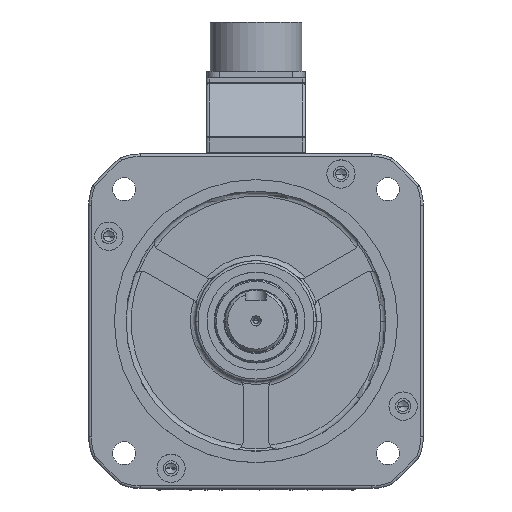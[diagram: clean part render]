
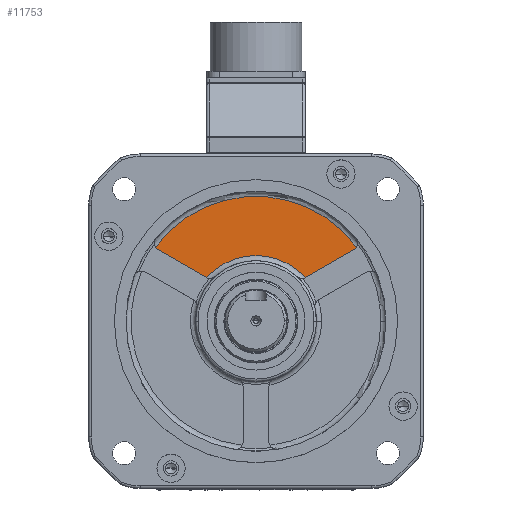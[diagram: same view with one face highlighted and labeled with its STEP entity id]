
A CAD part, top view. The second image highlights one B-rep face of the part: STEP entity #11753.
In plain terms, the highlighted planar face has unit normal (0, 0, 1).
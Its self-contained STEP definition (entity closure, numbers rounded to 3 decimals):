
#1118 = DIRECTION ( 'NONE',  ( 1., 0., 0. ) ) ;
#1283 = CARTESIAN_POINT ( 'NONE',  ( 2.5, 4.33, 0.5 ) ) ;
#2379 = VERTEX_POINT ( 'NONE', #14506 ) ;
#4654 = CIRCLE ( 'NONE', #46095, 3. ) ;
#5639 = VECTOR ( 'NONE', #63622, 1000. ) ;
#7478 = AXIS2_PLACEMENT_3D ( 'NONE', #50334, #18161, #13108 ) ;
#7651 = CIRCLE ( 'NONE', #39696, 25.5 ) ;
#8646 = DIRECTION ( 'NONE',  ( 1., 0., 0. ) ) ;
#8741 = VERTEX_POINT ( 'NONE', #63316 ) ;
#11753 = ADVANCED_FACE ( 'NONE', ( #36964 ), #43251, .T. ) ;
#13108 = DIRECTION ( 'NONE',  ( 1., 0., 0. ) ) ;
#14506 = CARTESIAN_POINT ( 'NONE',  ( -19.379, 16.962, 0.5 ) ) ;
#15056 = EDGE_CURVE ( 'NONE', #2379, #39475, #79655, .T. ) ;
#16365 = AXIS2_PLACEMENT_3D ( 'NONE', #72984, #52937, #66301 ) ;
#16719 = CARTESIAN_POINT ( 'NONE',  ( 19.147, 16.841, 0.5 ) ) ;
#17251 = VERTEX_POINT ( 'NONE', #27687 ) ;
#17790 = EDGE_CURVE ( 'NONE', #20796, #17251, #34657, .T. ) ;
#18161 = DIRECTION ( 'NONE',  ( 0., 0., 1. ) ) ;
#19533 = CARTESIAN_POINT ( 'NONE',  ( 36.549, 30.339, 0.5 ) ) ;
#19543 = DIRECTION ( 'NONE',  ( 0., 0., 1. ) ) ;
#20139 = DIRECTION ( 'NONE',  ( 0., 0., 1. ) ) ;
#20796 = VERTEX_POINT ( 'NONE', #48781 ) ;
#21496 = ORIENTED_EDGE ( 'NONE', *, *, #31641, .T. ) ;
#22866 = EDGE_CURVE ( 'NONE', #2379, #33948, #58562, .T. ) ;
#23264 = DIRECTION ( 'NONE',  ( 0., 0., 1. ) ) ;
#23380 = ORIENTED_EDGE ( 'NONE', *, *, #79434, .T. ) ;
#25157 = CIRCLE ( 'NONE', #38516, 3. ) ;
#27687 = CARTESIAN_POINT ( 'NONE',  ( 38.049, 27.741, 0.5 ) ) ;
#29224 = DIRECTION ( 'NONE',  ( 0.866, 0.5, 0. ) ) ;
#31641 = EDGE_CURVE ( 'NONE', #39475, #46913, #7651, .T. ) ;
#32449 = VERTEX_POINT ( 'NONE', #39717 ) ;
#32488 = CARTESIAN_POINT ( 'NONE',  ( -36.549, 30.339, 0.5 ) ) ;
#32900 = DIRECTION ( 'NONE',  ( 0., 0., -1. ) ) ;
#33948 = VERTEX_POINT ( 'NONE', #70997 ) ;
#34657 = LINE ( 'NONE', #73978, #70481 ) ;
#36964 = FACE_OUTER_BOUND ( 'NONE', #72852, .T. ) ;
#37381 = ORIENTED_EDGE ( 'NONE', *, *, #15056, .T. ) ;
#38516 = AXIS2_PLACEMENT_3D ( 'NONE', #19533, #52538, #8646 ) ;
#38605 = CARTESIAN_POINT ( 'NONE',  ( -19.147, 16.841, 0.5 ) ) ;
#38996 = ORIENTED_EDGE ( 'NONE', *, *, #17790, .T. ) ;
#39475 = VERTEX_POINT ( 'NONE', #38605 ) ;
#39696 = AXIS2_PLACEMENT_3D ( 'NONE', #47093, #32900, #58804 ) ;
#39717 = CARTESIAN_POINT ( 'NONE',  ( -39.078, 28.726, 0.5 ) ) ;
#43251 = PLANE ( 'NONE',  #7478 ) ;
#43428 = EDGE_CURVE ( 'NONE', #17251, #8741, #25157, .T. ) ;
#43570 = AXIS2_PLACEMENT_3D ( 'NONE', #58186, #20139, #45655 ) ;
#44271 = ORIENTED_EDGE ( 'NONE', *, *, #43428, .T. ) ;
#44446 = CIRCLE ( 'NONE', #16365, 48.5 ) ;
#45655 = DIRECTION ( 'NONE',  ( 1., 0., 0. ) ) ;
#46095 = AXIS2_PLACEMENT_3D ( 'NONE', #32488, #19543, #1118 ) ;
#46913 = VERTEX_POINT ( 'NONE', #16719 ) ;
#47093 = CARTESIAN_POINT ( 'NONE',  ( 0., 0., 0.5 ) ) ;
#48764 = DIRECTION ( 'NONE',  ( 1., 0., 0. ) ) ;
#48781 = CARTESIAN_POINT ( 'NONE',  ( 19.379, 16.962, 0.5 ) ) ;
#50334 = CARTESIAN_POINT ( 'NONE',  ( 0., 0., 0.5 ) ) ;
#51070 = EDGE_CURVE ( 'NONE', #32449, #33948, #4654, .T. ) ;
#51483 = AXIS2_PLACEMENT_3D ( 'NONE', #82233, #23264, #48764 ) ;
#52538 = DIRECTION ( 'NONE',  ( 0., 0., 1. ) ) ;
#52865 = CIRCLE ( 'NONE', #51483, 3. ) ;
#52937 = DIRECTION ( 'NONE',  ( 0., 0., 1. ) ) ;
#58186 = CARTESIAN_POINT ( 'NONE',  ( -17.879, 19.56, 0.5 ) ) ;
#58562 = LINE ( 'NONE', #1283, #5639 ) ;
#58804 = DIRECTION ( 'NONE',  ( 1., 0., 0. ) ) ;
#60620 = ORIENTED_EDGE ( 'NONE', *, *, #51070, .T. ) ;
#63205 = ORIENTED_EDGE ( 'NONE', *, *, #22866, .F. ) ;
#63316 = CARTESIAN_POINT ( 'NONE',  ( 39.078, 28.726, 0.5 ) ) ;
#63622 = DIRECTION ( 'NONE',  ( -0.866, 0.5, 0. ) ) ;
#66301 = DIRECTION ( 'NONE',  ( 1., 0., 0. ) ) ;
#70481 = VECTOR ( 'NONE', #29224, 1000. ) ;
#70997 = CARTESIAN_POINT ( 'NONE',  ( -38.049, 27.741, 0.5 ) ) ;
#72852 = EDGE_LOOP ( 'NONE', ( #37381, #21496, #77993, #38996, #44271, #23380, #60620, #63205 ) ) ;
#72984 = CARTESIAN_POINT ( 'NONE',  ( 0., 0., 0.5 ) ) ;
#73229 = EDGE_CURVE ( 'NONE', #46913, #20796, #52865, .T. ) ;
#73978 = CARTESIAN_POINT ( 'NONE',  ( -2.5, 4.33, 0.5 ) ) ;
#77993 = ORIENTED_EDGE ( 'NONE', *, *, #73229, .T. ) ;
#79434 = EDGE_CURVE ( 'NONE', #8741, #32449, #44446, .T. ) ;
#79655 = CIRCLE ( 'NONE', #43570, 3. ) ;
#82233 = CARTESIAN_POINT ( 'NONE',  ( 17.879, 19.56, 0.5 ) ) ;
